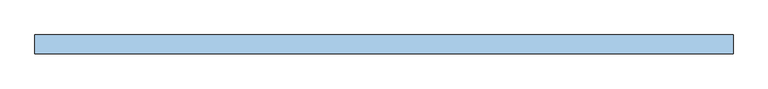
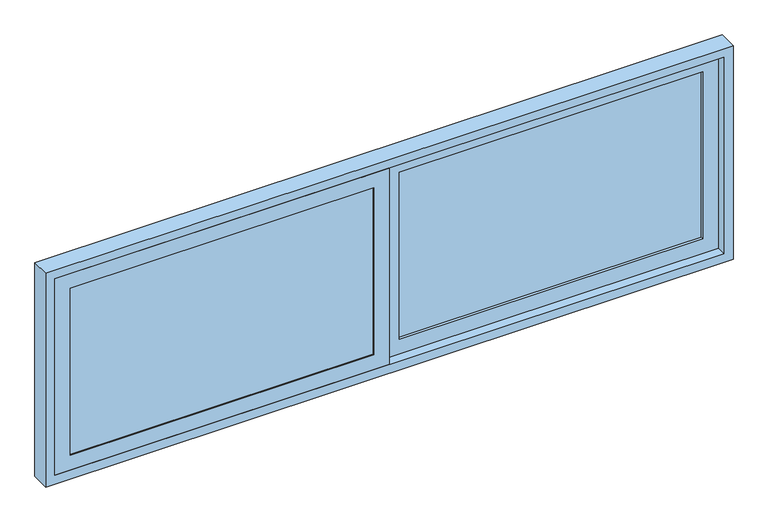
"""IFC4 building model written with IfcOpenShell, lengths in millimetres: window geometry, Janela Correr (bancada)- 2 folhas.GLE : 222X70 h=17 (Abrir 2 folhas) 2."""

from ifc_helpers import new_model, si_unit, frame, origin, place, context, project, spatial, polyline, outline, extrude, source, transform, mapped, element, save


def window_a2c0ad5d(model_context):
    return source(origin(), model_context, "Body", "SweptSolid", [
        extrude(outline(polyline([(1000.0, -1110.0), (1000.0, 1110.0), (1730.0, 1110.0), (1730.0, -1110.0), (1000.0, -1110.0)]), holes=[polyline([(1700.0, -1080.0), (1700.0, 1080.0), (1030.0, 1080.0), (1030.0, -1080.0), (1700.0, -1080.0)])]), frame((0.0, -30.0, 0.0), z_axis=(0.0, 1.0, 0.0), x_axis=(0.0, 0.0, 1.0)), (0.0, 0.0, 1.0), 60.0),
        extrude(outline(polyline([(-50.0, -25.0), (-1030.0, -25.0), (-1030.0, -15.0), (-50.0, -15.0), (-50.0, -25.0)])), frame((0.0, 0.0, 1080.0), z_axis=(0.0, 0.0, 1.0), x_axis=(1.0, 0.0, 0.0)), (0.0, 0.0, 1.0), 570.0),
        extrude(outline(polyline([(1030.0, 10.0), (50.0, 10.0), (50.0, 20.0), (1030.0, 20.0), (1030.0, 10.0)])), frame((0.0, 0.0, 1080.0), z_axis=(0.0, 0.0, 1.0), x_axis=(1.0, 0.0, 0.0)), (0.0, 0.0, 1.0), 570.0),
        extrude(outline(polyline([(1700.0, 0.0), (1030.0, 0.0), (1030.0, 1080.0), (1700.0, 1080.0), (1700.0, 0.0)]), holes=[polyline([(1650.0, 50.0), (1650.0, 1030.0), (1080.0, 1030.0), (1080.0, 50.0), (1650.0, 50.0)])]), frame((0.0, 0.0, 0.0), z_axis=(0.0, 1.0, 0.0), x_axis=(0.0, 0.0, 1.0)), (0.0, 0.0, 1.0), 30.0),
        extrude(outline(polyline([(1700.0, -1080.0), (1030.0, -1080.0), (1030.0, 0.0), (1700.0, 0.0), (1700.0, -1080.0)]), holes=[polyline([(1650.0, -1030.0), (1650.0, -50.0), (1080.0, -50.0), (1080.0, -1030.0), (1650.0, -1030.0)])]), frame((0.0, -30.0, 0.0), z_axis=(0.0, 1.0, 0.0), x_axis=(0.0, 0.0, 1.0)), (0.0, 0.0, 1.0), 30.0),
    ])


if __name__ == "__main__":
    model = new_model("IFC4")
    model_context = context("Model", 3, world=origin())
    ifc_project = project(units=[si_unit("LENGTHUNIT", "METRE", prefix="MILLI")], contexts=[model_context])
    site = spatial("IfcSite", under=ifc_project)
    building = spatial("IfcBuilding", under=site)
    placement = place(None, origin())
    window_shape = window_a2c0ad5d(model_context)
    element("IfcWindow", 1, ObjectType="Janela Correr (bancada)- 2 folhas.GLE : 222X70 h=17 (Abrir 2 folhas) 2", at=placement, inside=building, context=model_context, shape_type="MappedRepresentation", body=[
        mapped(window_shape, transform((0.0, 0.0, 0.0), x_axis=(1.0, 0.0, 0.0), y_axis=(0.0, 1.0, 0.0), z_axis=(0.0, 0.0, 1.0))),
    ])
    save(model, "model.ifc")
